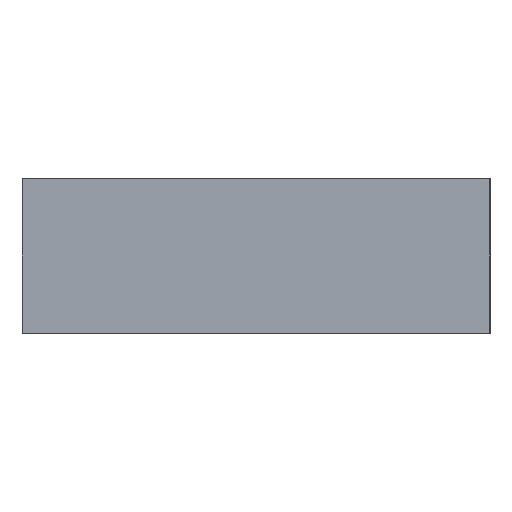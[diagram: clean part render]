
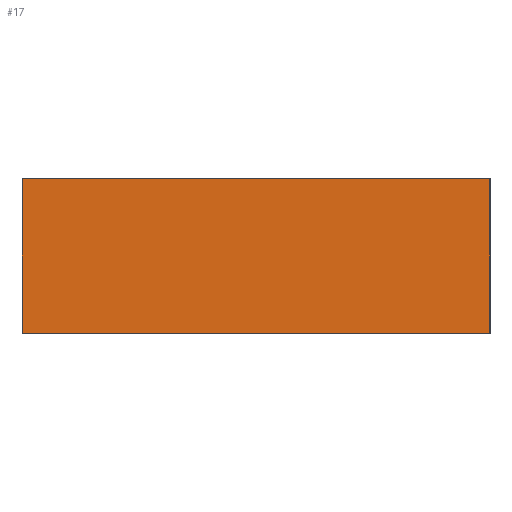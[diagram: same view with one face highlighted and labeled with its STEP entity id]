
A CAD part, left-side view. The second image highlights one B-rep face of the part: STEP entity #17.
In plain terms, the highlighted planar face has unit normal (-1, 0, 0).
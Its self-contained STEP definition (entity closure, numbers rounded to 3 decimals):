
#17 = ADVANCED_FACE('',(#18),#32,.F.);
#18 = FACE_BOUND('',#19,.F.);
#19 = EDGE_LOOP('',(#20,#55,#83,#111));
#20 = ORIENTED_EDGE('',*,*,#21,.F.);
#21 = EDGE_CURVE('',#22,#24,#26,.T.);
#22 = VERTEX_POINT('',#23);
#23 = CARTESIAN_POINT('',(-22.585,-15.1,-5.));
#24 = VERTEX_POINT('',#25);
#25 = CARTESIAN_POINT('',(-22.585,-15.1,5.));
#26 = SURFACE_CURVE('',#27,(#31,#43),.PCURVE_S1.);
#27 = LINE('',#28,#29);
#28 = CARTESIAN_POINT('',(-22.585,-15.1,-5.));
#29 = VECTOR('',#30,1.);
#30 = DIRECTION('',(0.,0.,1.));
#31 = PCURVE('',#32,#37);
#32 = PLANE('',#33);
#33 = AXIS2_PLACEMENT_3D('',#34,#35,#36);
#34 = CARTESIAN_POINT('',(-22.585,-15.1,-5.));
#35 = DIRECTION('',(1.,0.,0.));
#36 = DIRECTION('',(0.,0.,1.));
#37 = DEFINITIONAL_REPRESENTATION('',(#38),#42);
#38 = LINE('',#39,#40);
#39 = CARTESIAN_POINT('',(0.,0.));
#40 = VECTOR('',#41,1.);
#41 = DIRECTION('',(1.,0.));
#42 = ( GEOMETRIC_REPRESENTATION_CONTEXT(2) 
PARAMETRIC_REPRESENTATION_CONTEXT() REPRESENTATION_CONTEXT('2D SPACE',''
  ) );
#43 = PCURVE('',#44,#49);
#44 = PLANE('',#45);
#45 = AXIS2_PLACEMENT_3D('',#46,#47,#48);
#46 = CARTESIAN_POINT('',(-22.585,-15.1,-5.));
#47 = DIRECTION('',(0.,1.,0.));
#48 = DIRECTION('',(0.,0.,1.));
#49 = DEFINITIONAL_REPRESENTATION('',(#50),#54);
#50 = LINE('',#51,#52);
#51 = CARTESIAN_POINT('',(0.,0.));
#52 = VECTOR('',#53,1.);
#53 = DIRECTION('',(1.,0.));
#54 = ( GEOMETRIC_REPRESENTATION_CONTEXT(2) 
PARAMETRIC_REPRESENTATION_CONTEXT() REPRESENTATION_CONTEXT('2D SPACE',''
  ) );
#55 = ORIENTED_EDGE('',*,*,#56,.T.);
#56 = EDGE_CURVE('',#22,#57,#59,.T.);
#57 = VERTEX_POINT('',#58);
#58 = CARTESIAN_POINT('',(-22.585,15.1,-5.));
#59 = SURFACE_CURVE('',#60,(#64,#71),.PCURVE_S1.);
#60 = LINE('',#61,#62);
#61 = CARTESIAN_POINT('',(-22.585,-15.1,-5.));
#62 = VECTOR('',#63,1.);
#63 = DIRECTION('',(0.,1.,0.));
#64 = PCURVE('',#32,#65);
#65 = DEFINITIONAL_REPRESENTATION('',(#66),#70);
#66 = LINE('',#67,#68);
#67 = CARTESIAN_POINT('',(0.,0.));
#68 = VECTOR('',#69,1.);
#69 = DIRECTION('',(0.,-1.));
#70 = ( GEOMETRIC_REPRESENTATION_CONTEXT(2) 
PARAMETRIC_REPRESENTATION_CONTEXT() REPRESENTATION_CONTEXT('2D SPACE',''
  ) );
#71 = PCURVE('',#72,#77);
#72 = PLANE('',#73);
#73 = AXIS2_PLACEMENT_3D('',#74,#75,#76);
#74 = CARTESIAN_POINT('',(-22.585,-15.1,-5.));
#75 = DIRECTION('',(0.,0.,1.));
#76 = DIRECTION('',(1.,0.,0.));
#77 = DEFINITIONAL_REPRESENTATION('',(#78),#82);
#78 = LINE('',#79,#80);
#79 = CARTESIAN_POINT('',(0.,0.));
#80 = VECTOR('',#81,1.);
#81 = DIRECTION('',(0.,1.));
#82 = ( GEOMETRIC_REPRESENTATION_CONTEXT(2) 
PARAMETRIC_REPRESENTATION_CONTEXT() REPRESENTATION_CONTEXT('2D SPACE',''
  ) );
#83 = ORIENTED_EDGE('',*,*,#84,.T.);
#84 = EDGE_CURVE('',#57,#85,#87,.T.);
#85 = VERTEX_POINT('',#86);
#86 = CARTESIAN_POINT('',(-22.585,15.1,5.));
#87 = SURFACE_CURVE('',#88,(#92,#99),.PCURVE_S1.);
#88 = LINE('',#89,#90);
#89 = CARTESIAN_POINT('',(-22.585,15.1,-5.));
#90 = VECTOR('',#91,1.);
#91 = DIRECTION('',(0.,0.,1.));
#92 = PCURVE('',#32,#93);
#93 = DEFINITIONAL_REPRESENTATION('',(#94),#98);
#94 = LINE('',#95,#96);
#95 = CARTESIAN_POINT('',(0.,-30.2));
#96 = VECTOR('',#97,1.);
#97 = DIRECTION('',(1.,0.));
#98 = ( GEOMETRIC_REPRESENTATION_CONTEXT(2) 
PARAMETRIC_REPRESENTATION_CONTEXT() REPRESENTATION_CONTEXT('2D SPACE',''
  ) );
#99 = PCURVE('',#100,#105);
#100 = PLANE('',#101);
#101 = AXIS2_PLACEMENT_3D('',#102,#103,#104);
#102 = CARTESIAN_POINT('',(-22.585,15.1,-5.));
#103 = DIRECTION('',(0.,1.,0.));
#104 = DIRECTION('',(0.,0.,1.));
#105 = DEFINITIONAL_REPRESENTATION('',(#106),#110);
#106 = LINE('',#107,#108);
#107 = CARTESIAN_POINT('',(0.,0.));
#108 = VECTOR('',#109,1.);
#109 = DIRECTION('',(1.,0.));
#110 = ( GEOMETRIC_REPRESENTATION_CONTEXT(2) 
PARAMETRIC_REPRESENTATION_CONTEXT() REPRESENTATION_CONTEXT('2D SPACE',''
  ) );
#111 = ORIENTED_EDGE('',*,*,#112,.F.);
#112 = EDGE_CURVE('',#24,#85,#113,.T.);
#113 = SURFACE_CURVE('',#114,(#118,#125),.PCURVE_S1.);
#114 = LINE('',#115,#116);
#115 = CARTESIAN_POINT('',(-22.585,-15.1,5.));
#116 = VECTOR('',#117,1.);
#117 = DIRECTION('',(0.,1.,0.));
#118 = PCURVE('',#32,#119);
#119 = DEFINITIONAL_REPRESENTATION('',(#120),#124);
#120 = LINE('',#121,#122);
#121 = CARTESIAN_POINT('',(10.,0.));
#122 = VECTOR('',#123,1.);
#123 = DIRECTION('',(0.,-1.));
#124 = ( GEOMETRIC_REPRESENTATION_CONTEXT(2) 
PARAMETRIC_REPRESENTATION_CONTEXT() REPRESENTATION_CONTEXT('2D SPACE',''
  ) );
#125 = PCURVE('',#126,#131);
#126 = PLANE('',#127);
#127 = AXIS2_PLACEMENT_3D('',#128,#129,#130);
#128 = CARTESIAN_POINT('',(-22.585,-15.1,5.));
#129 = DIRECTION('',(0.,0.,1.));
#130 = DIRECTION('',(1.,0.,0.));
#131 = DEFINITIONAL_REPRESENTATION('',(#132),#136);
#132 = LINE('',#133,#134);
#133 = CARTESIAN_POINT('',(0.,0.));
#134 = VECTOR('',#135,1.);
#135 = DIRECTION('',(0.,1.));
#136 = ( GEOMETRIC_REPRESENTATION_CONTEXT(2) 
PARAMETRIC_REPRESENTATION_CONTEXT() REPRESENTATION_CONTEXT('2D SPACE',''
  ) );
